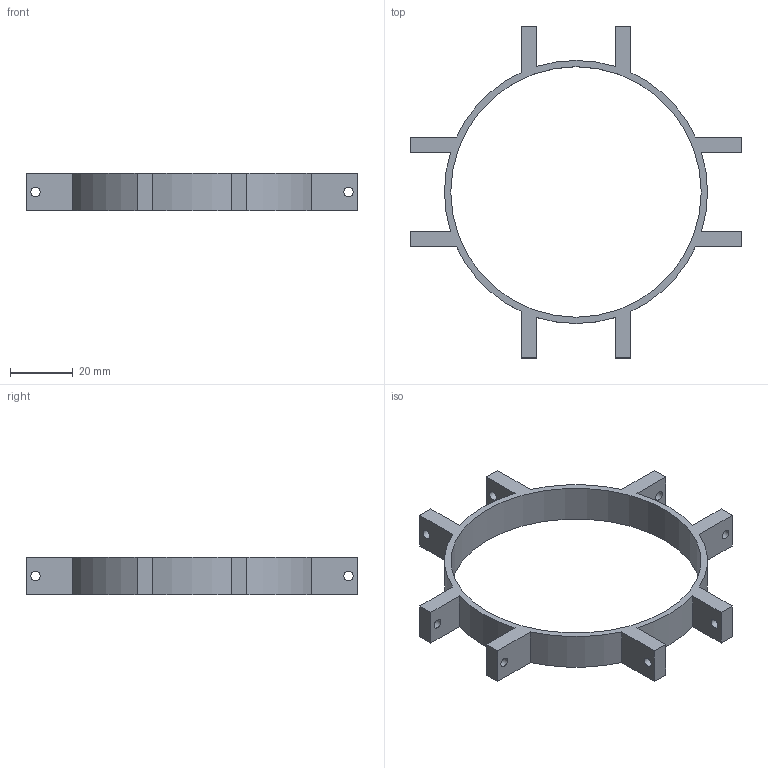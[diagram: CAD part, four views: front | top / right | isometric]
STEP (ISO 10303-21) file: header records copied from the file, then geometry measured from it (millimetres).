
FILE_DESCRIPTION(/* description */ ('STEP AP242 Edition 2','CAx-IF Rec.Pracs.---Representation and Presentation of Product Manufacturing Information (PMI)---4.0---2014-10-13','CAx-IF Rec.Pracs.---3D Tessellated Geometry---0.4---2014-09-14','2;1','CAx-IF Rec.Pracs.---User Defined Attributes---1.5---2016-08-15'),/* implementation_level */ '2;1');
FILE_NAME(/* name */ '695aff29d13f1a023388955f',/* time_stamp */ '2026-01-05T00:00:41Z',/* author */ (''),/* organization */ (''),/* preprocessor_version */ 'ST-DEVELOPER v20',/* originating_system */ 'ONSHAPE BY PTC INC, 1.208',/* authorisation */ ' ');
FILE_SCHEMA (('AP242_MANAGED_MODEL_BASED_3D_ENGINEERING_MIM_LF { 1 0 10303 442 3 1 4 }'));
Length unit declared in the file: metre
Products named in the file (1): Part 1
Bounding box: 106 x 106 x 12 mm (x, y, z)
Volume: 12533.3 mm3; surface area: 11213 mm2
Topology: 1 solids, 1 shells, 43 faces, 127 edges, 86 vertices
Faces by surface type: plane 26, cylinder 17
Full cylindrical faces by diameter (mm): 3 x8, 80 x1
Entity records: 1424 total; most frequent: CARTESIAN_POINT 240, DIRECTION 236, ORIENTED_EDGE 228, EDGE_CURVE 114, VERTEX_POINT 82, LINE 80, VECTOR 80, AXIS2_PLACEMENT_3D 78
